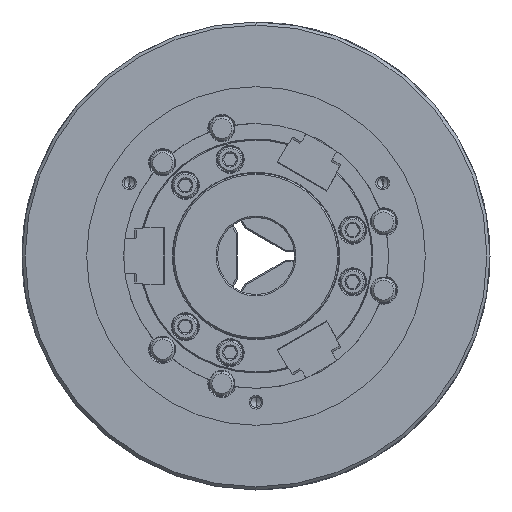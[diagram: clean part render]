
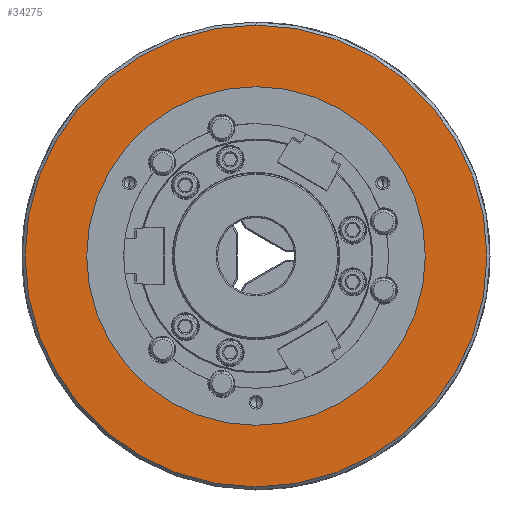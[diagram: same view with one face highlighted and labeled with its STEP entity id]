
A CAD part, left-side view. The second image highlights one B-rep face of the part: STEP entity #34275.
In plain terms, the highlighted planar face has unit normal (-1, 0, 0).
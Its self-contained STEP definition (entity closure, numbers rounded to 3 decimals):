
#107 = CARTESIAN_POINT ( 'NONE',  ( -110., 150., 0. ) ) ;
#1983 = EDGE_CURVE ( 'NONE', #47389, #33710, #75967, .T. ) ;
#2705 = FACE_BOUND ( 'NONE', #69289, .T. ) ;
#3397 = CARTESIAN_POINT ( 'NONE',  ( -110., 0., 0. ) ) ;
#6141 = CARTESIAN_POINT ( 'NONE',  ( -110., 0., 0. ) ) ;
#8118 = AXIS2_PLACEMENT_3D ( 'NONE', #3397, #27258, #57258 ) ;
#12482 = AXIS2_PLACEMENT_3D ( 'NONE', #16632, #52777, #63944 ) ;
#16632 = CARTESIAN_POINT ( 'NONE',  ( -110., 0., 0. ) ) ;
#23596 = DIRECTION ( 'NONE',  ( 1., 0., 0. ) ) ;
#24488 = CARTESIAN_POINT ( 'NONE',  ( -110., 0., 150. ) ) ;
#26191 = DIRECTION ( 'NONE',  ( 0., 0., -1. ) ) ;
#27258 = DIRECTION ( 'NONE',  ( -1., 0., 0. ) ) ;
#31906 = CIRCLE ( 'NONE', #42963, 150. ) ;
#33710 = VERTEX_POINT ( 'NONE', #46041 ) ;
#34275 = ADVANCED_FACE ( 'NONE', ( #2705, #71687 ), #64765, .F. ) ;
#36932 = DIRECTION ( 'NONE',  ( -1., 0., 0. ) ) ;
#37531 = EDGE_CURVE ( 'NONE', #52593, #68419, #31906, .T. ) ;
#42963 = AXIS2_PLACEMENT_3D ( 'NONE', #71864, #66496, #72994 ) ;
#44596 = ORIENTED_EDGE ( 'NONE', *, *, #57035, .T. ) ;
#46041 = CARTESIAN_POINT ( 'NONE',  ( -110., 0., -110. ) ) ;
#47389 = VERTEX_POINT ( 'NONE', #52101 ) ;
#52101 = CARTESIAN_POINT ( 'NONE',  ( -110., 0., 110. ) ) ;
#52593 = VERTEX_POINT ( 'NONE', #57445 ) ;
#52777 = DIRECTION ( 'NONE',  ( -1., 0., 0. ) ) ;
#54309 = EDGE_CURVE ( 'NONE', #33710, #47389, #73257, .T. ) ;
#54530 = EDGE_LOOP ( 'NONE', ( #67485, #44596 ) ) ;
#57035 = EDGE_CURVE ( 'NONE', #68419, #52593, #69040, .T. ) ;
#57258 = DIRECTION ( 'NONE',  ( 0., 0., 1. ) ) ;
#57406 = AXIS2_PLACEMENT_3D ( 'NONE', #107, #23596, #26191 ) ;
#57445 = CARTESIAN_POINT ( 'NONE',  ( -110., 0., -150. ) ) ;
#57615 = AXIS2_PLACEMENT_3D ( 'NONE', #6141, #36932, #71945 ) ;
#63944 = DIRECTION ( 'NONE',  ( 0., 0., 1. ) ) ;
#64765 = PLANE ( 'NONE',  #57406 ) ;
#66496 = DIRECTION ( 'NONE',  ( -1., 0., 0. ) ) ;
#67230 = ORIENTED_EDGE ( 'NONE', *, *, #54309, .F. ) ;
#67485 = ORIENTED_EDGE ( 'NONE', *, *, #37531, .T. ) ;
#68073 = ORIENTED_EDGE ( 'NONE', *, *, #1983, .F. ) ;
#68419 = VERTEX_POINT ( 'NONE', #24488 ) ;
#69040 = CIRCLE ( 'NONE', #12482, 150. ) ;
#69289 = EDGE_LOOP ( 'NONE', ( #68073, #67230 ) ) ;
#71687 = FACE_OUTER_BOUND ( 'NONE', #54530, .T. ) ;
#71864 = CARTESIAN_POINT ( 'NONE',  ( -110., 0., 0. ) ) ;
#71945 = DIRECTION ( 'NONE',  ( 0., 0., 1. ) ) ;
#72994 = DIRECTION ( 'NONE',  ( 0., 0., 1. ) ) ;
#73257 = CIRCLE ( 'NONE', #8118, 110. ) ;
#75967 = CIRCLE ( 'NONE', #57615, 110. ) ;
